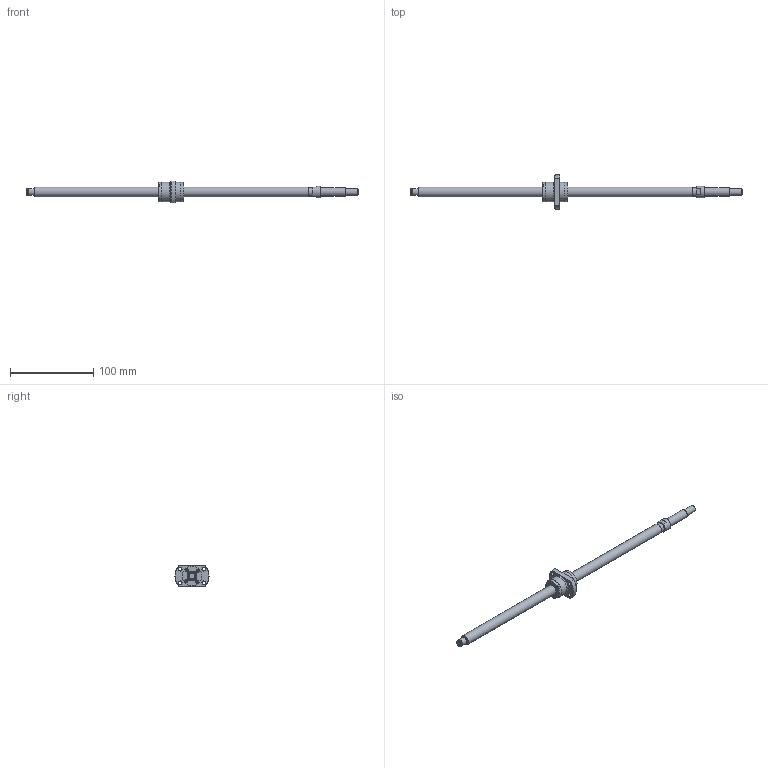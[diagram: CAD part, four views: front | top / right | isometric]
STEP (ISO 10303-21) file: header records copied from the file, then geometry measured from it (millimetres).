
FILE_DESCRIPTION(/* description */ ('STEP AP214'),/* implementation_level */ '2;1');
FILE_NAME(/* name */ 'SG1210-330R400C5B0X(150)',/* time_stamp */ '2026-07-24T15:22:22+02:00',/* author */ ('License CC BY-ND 4.0'),/* organization */ ('CADENAS'),/* preprocessor_version */ 'ST-DEVELOPER v20',/* originating_system */ 'PARTsolutions',/* authorisation */ ' ');
FILE_SCHEMA (('AUTOMOTIVE_DESIGN {1 0 10303 214 3 1 1}'));
Length unit declared in the file: millimetre
Products named in the file (3): SG1210-330R400C5B0X(150); SG1210-330R400C5B_shaft; SG1210 C5_nut
Assembly tree (2 placements, depth 2):
  SG1210-330R400C5B0X(150)
    SG1210-330R400C5B_shaft
    SG1210 C5_nut
Bounding box: 400 x 41 x 26 mm (x, y, z)
Volume: 55626.4 mm3; surface area: 20642.3 mm2
Topology: 2 solids, 2 shells, 106 faces, 238 edges, 156 vertices
Faces by surface type: plane 66, cylinder 28, cone 11, torus 1
Full cylindrical faces by diameter (mm): 3.8 x4, 4.5 x4, 7.6 x1, 8 x3, 10 x1, 10.46 x1, 12 x2, 14 x1, 23.5 x3, 24 x2
Entity records: 2891 total; most frequent: DIRECTION 494, CARTESIAN_POINT 493, ORIENTED_EDGE 412, EDGE_CURVE 206, AXIS2_PLACEMENT_3D 187, EDGE_LOOP 166, FACE_BOUND 166, VERTEX_POINT 154
